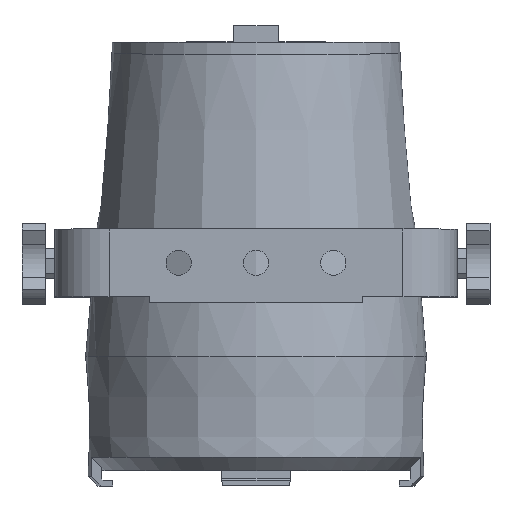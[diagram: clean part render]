
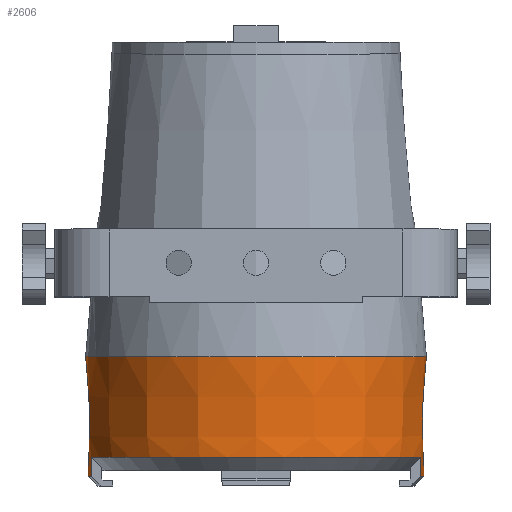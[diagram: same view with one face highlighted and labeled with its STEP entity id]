
A CAD part, top view. The second image highlights one B-rep face of the part: STEP entity #2606.
In plain terms, the highlighted conical face has half-angle 1 degrees and reference radius 87.573 mm.
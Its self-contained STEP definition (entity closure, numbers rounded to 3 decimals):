
#20=CONICAL_SURFACE('',#2852,87.572,0.017);
#45=B_SPLINE_CURVE_WITH_KNOTS('',3,(#4403,#4404,#4405,#4406),
 .UNSPECIFIED.,.F.,.F.,(4,4),(0.,0.99),.UNSPECIFIED.);
#46=B_SPLINE_CURVE_WITH_KNOTS('',3,(#4415,#4416,#4417,#4418),
 .UNSPECIFIED.,.F.,.F.,(4,4),(0.01,1.),.UNSPECIFIED.);
#48=B_SPLINE_CURVE_WITH_KNOTS('',3,(#4437,#4438,#4439,#4440),
 .UNSPECIFIED.,.F.,.F.,(4,4),(0.01,1.),.UNSPECIFIED.);
#49=B_SPLINE_CURVE_WITH_KNOTS('',3,(#4445,#4446,#4447,#4448),
 .UNSPECIFIED.,.F.,.F.,(4,4),(0.,0.99),.UNSPECIFIED.);
#50=B_SPLINE_CURVE_WITH_KNOTS('',3,(#4452,#4453,#4454,#4455),
 .UNSPECIFIED.,.F.,.F.,(4,4),(0.01,1.),.UNSPECIFIED.);
#51=B_SPLINE_CURVE_WITH_KNOTS('',3,(#4459,#4460,#4461,#4462),
 .UNSPECIFIED.,.F.,.F.,(4,4),(0.,0.99),.UNSPECIFIED.);
#163=CIRCLE('',#2851,87.005);
#164=CIRCLE('',#2853,88.088);
#165=CIRCLE('',#2854,88.088);
#166=CIRCLE('',#2855,87.005);
#167=CIRCLE('',#2856,87.178);
#168=CIRCLE('',#2857,87.178);
#169=CIRCLE('',#2858,87.005);
#170=CIRCLE('',#2859,87.178);
#171=CIRCLE('',#2860,87.005);
#331=FACE_OUTER_BOUND('',#481,.T.);
#481=EDGE_LOOP('',(#2256,#2257,#2258,#2259,#2260,#2261,#2262,#2263,#2264,
#2265,#2266,#2267,#2268,#2269,#2270,#2271,#2272));
#728=LINE('',#4433,#980);
#980=VECTOR('',#3514,87.572);
#1221=VERTEX_POINT('',#4391);
#1222=VERTEX_POINT('',#4396);
#1223=VERTEX_POINT('',#4410);
#1224=VERTEX_POINT('',#4414);
#1225=VERTEX_POINT('',#4428);
#1226=VERTEX_POINT('',#4429);
#1227=VERTEX_POINT('',#4432);
#1228=VERTEX_POINT('',#4434);
#1229=VERTEX_POINT('',#4436);
#1230=VERTEX_POINT('',#4442);
#1231=VERTEX_POINT('',#4444);
#1232=VERTEX_POINT('',#4449);
#1233=VERTEX_POINT('',#4451);
#1234=VERTEX_POINT('',#4456);
#1235=VERTEX_POINT('',#4458);
#1575=EDGE_CURVE('',#1222,#1221,#45,.T.);
#1578=EDGE_CURVE('',#1223,#1224,#46,.T.);
#1580=EDGE_CURVE('',#1222,#1224,#163,.T.);
#1581=EDGE_CURVE('',#1225,#1226,#164,.T.);
#1582=EDGE_CURVE('',#1226,#1225,#165,.T.);
#1583=EDGE_CURVE('',#1226,#1227,#728,.T.);
#1584=EDGE_CURVE('',#1228,#1227,#166,.T.);
#1585=EDGE_CURVE('',#1229,#1228,#48,.T.);
#1586=EDGE_CURVE('',#1221,#1229,#167,.T.);
#1587=EDGE_CURVE('',#1230,#1223,#168,.T.);
#1588=EDGE_CURVE('',#1231,#1230,#49,.T.);
#1589=EDGE_CURVE('',#1231,#1232,#169,.T.);
#1590=EDGE_CURVE('',#1233,#1232,#50,.T.);
#1591=EDGE_CURVE('',#1234,#1233,#170,.T.);
#1592=EDGE_CURVE('',#1235,#1234,#51,.T.);
#1593=EDGE_CURVE('',#1227,#1235,#171,.T.);
#2256=ORIENTED_EDGE('',*,*,#1581,.F.);
#2257=ORIENTED_EDGE('',*,*,#1582,.F.);
#2258=ORIENTED_EDGE('',*,*,#1583,.T.);
#2259=ORIENTED_EDGE('',*,*,#1584,.F.);
#2260=ORIENTED_EDGE('',*,*,#1585,.F.);
#2261=ORIENTED_EDGE('',*,*,#1586,.F.);
#2262=ORIENTED_EDGE('',*,*,#1575,.F.);
#2263=ORIENTED_EDGE('',*,*,#1580,.T.);
#2264=ORIENTED_EDGE('',*,*,#1578,.F.);
#2265=ORIENTED_EDGE('',*,*,#1587,.F.);
#2266=ORIENTED_EDGE('',*,*,#1588,.F.);
#2267=ORIENTED_EDGE('',*,*,#1589,.T.);
#2268=ORIENTED_EDGE('',*,*,#1590,.F.);
#2269=ORIENTED_EDGE('',*,*,#1591,.F.);
#2270=ORIENTED_EDGE('',*,*,#1592,.F.);
#2271=ORIENTED_EDGE('',*,*,#1593,.F.);
#2272=ORIENTED_EDGE('',*,*,#1583,.F.);
#2606=ADVANCED_FACE('',(#331),#20,.T.);
#2851=AXIS2_PLACEMENT_3D('',#4426,#3506,#3507);
#2852=AXIS2_PLACEMENT_3D('',#4427,#3508,#3509);
#2853=AXIS2_PLACEMENT_3D('',#4430,#3510,#3511);
#2854=AXIS2_PLACEMENT_3D('',#4431,#3512,#3513);
#2855=AXIS2_PLACEMENT_3D('',#4435,#3515,#3516);
#2856=AXIS2_PLACEMENT_3D('',#4441,#3517,#3518);
#2857=AXIS2_PLACEMENT_3D('',#4443,#3519,#3520);
#2858=AXIS2_PLACEMENT_3D('',#4450,#3521,#3522);
#2859=AXIS2_PLACEMENT_3D('',#4457,#3523,#3524);
#2860=AXIS2_PLACEMENT_3D('',#4463,#3525,#3526);
#3506=DIRECTION('center_axis',(0.,0.,1.));
#3507=DIRECTION('ref_axis',(-0.979,0.203,0.));
#3508=DIRECTION('center_axis',(0.,0.,1.));
#3509=DIRECTION('ref_axis',(0.,-1.,0.));
#3510=DIRECTION('center_axis',(0.,0.,1.));
#3511=DIRECTION('ref_axis',(1.,0.,0.));
#3512=DIRECTION('center_axis',(0.,0.,1.));
#3513=DIRECTION('ref_axis',(1.,0.,0.));
#3514=DIRECTION('',(0.,-0.017,-1.));
#3515=DIRECTION('center_axis',(0.,0.,-1.));
#3516=DIRECTION('ref_axis',(-0.203,0.979,0.));
#3517=DIRECTION('center_axis',(0.,0.,
-1.));
#3518=DIRECTION('ref_axis',(0.,1.,0.));
#3519=DIRECTION('center_axis',(0.,0.,
-1.));
#3520=DIRECTION('ref_axis',(0.,1.,0.));
#3521=DIRECTION('center_axis',(0.,0.,1.));
#3522=DIRECTION('ref_axis',(0.979,-0.203,0.));
#3523=DIRECTION('center_axis',(0.,0.,
-1.));
#3524=DIRECTION('ref_axis',(0.,1.,0.));
#3525=DIRECTION('center_axis',(0.,0.,-1.));
#3526=DIRECTION('ref_axis',(-0.203,0.979,0.));
#4391=CARTESIAN_POINT('',(-85.295,18.02,-63.1));
#4396=CARTESIAN_POINT('',(-85.191,17.675,-73.001));
#4403=CARTESIAN_POINT('Ctrl Pts',(-85.191,17.675,-73.001));
#4404=CARTESIAN_POINT('Ctrl Pts',(-85.226,17.79,-69.701));
#4405=CARTESIAN_POINT('Ctrl Pts',(-85.261,17.905,-66.4));
#4406=CARTESIAN_POINT('Ctrl Pts',(-85.295,18.02,-63.1));
#4410=CARTESIAN_POINT('',(-85.295,-18.02,-63.1));
#4414=CARTESIAN_POINT('',(-85.191,-17.675,-73.001));
#4415=CARTESIAN_POINT('Ctrl Pts',(-85.295,-18.02,-63.1));
#4416=CARTESIAN_POINT('Ctrl Pts',(-85.261,-17.905,-66.4));
#4417=CARTESIAN_POINT('Ctrl Pts',(-85.226,-17.79,-69.701));
#4418=CARTESIAN_POINT('Ctrl Pts',(-85.191,-17.675,-73.001));
#4426=CARTESIAN_POINT('Origin',(0.,0.,-73.001));
#4427=CARTESIAN_POINT('Origin',(0.,0.,-40.493));
#4428=CARTESIAN_POINT('',(0.,-88.088,-10.987));
#4429=CARTESIAN_POINT('',(0.,88.088,-10.987));
#4430=CARTESIAN_POINT('Origin',(0.,0.,-10.987));
#4431=CARTESIAN_POINT('Origin',(0.,0.,-10.987));
#4432=CARTESIAN_POINT('',(0.,87.005,-73.001));
#4433=CARTESIAN_POINT('',(0.,87.572,-40.493));
#4434=CARTESIAN_POINT('',(-17.675,85.191,-73.001));
#4435=CARTESIAN_POINT('Origin',(0.,0.,-73.001));
#4436=CARTESIAN_POINT('',(-18.02,85.295,-63.1));
#4437=CARTESIAN_POINT('Ctrl Pts',(-18.02,85.295,-63.1));
#4438=CARTESIAN_POINT('Ctrl Pts',(-17.905,85.261,-66.4));
#4439=CARTESIAN_POINT('Ctrl Pts',(-17.79,85.226,-69.701));
#4440=CARTESIAN_POINT('Ctrl Pts',(-17.675,85.191,-73.001));
#4441=CARTESIAN_POINT('Origin',(0.,0.,
-63.1));
#4442=CARTESIAN_POINT('',(85.29,-18.045,-63.1));
#4443=CARTESIAN_POINT('Origin',(0.,0.,
-63.1));
#4444=CARTESIAN_POINT('',(85.186,-17.699,-73.001));
#4445=CARTESIAN_POINT('Ctrl Pts',(85.186,-17.699,-73.001));
#4446=CARTESIAN_POINT('Ctrl Pts',(85.221,-17.815,-69.701));
#4447=CARTESIAN_POINT('Ctrl Pts',(85.255,-17.93,-66.4));
#4448=CARTESIAN_POINT('Ctrl Pts',(85.29,-18.045,-63.1));
#4449=CARTESIAN_POINT('',(85.186,17.699,-73.001));
#4450=CARTESIAN_POINT('Origin',(0.,0.,-73.001));
#4451=CARTESIAN_POINT('',(85.29,18.045,-63.1));
#4452=CARTESIAN_POINT('Ctrl Pts',(85.29,18.045,-63.1));
#4453=CARTESIAN_POINT('Ctrl Pts',(85.255,17.93,-66.4));
#4454=CARTESIAN_POINT('Ctrl Pts',(85.221,17.815,-69.701));
#4455=CARTESIAN_POINT('Ctrl Pts',(85.186,17.699,-73.001));
#4456=CARTESIAN_POINT('',(18.02,85.295,-63.1));
#4457=CARTESIAN_POINT('Origin',(0.,0.,
-63.1));
#4458=CARTESIAN_POINT('',(17.675,85.191,-73.001));
#4459=CARTESIAN_POINT('Ctrl Pts',(17.675,85.191,-73.001));
#4460=CARTESIAN_POINT('Ctrl Pts',(17.79,85.226,-69.701));
#4461=CARTESIAN_POINT('Ctrl Pts',(17.905,85.261,-66.4));
#4462=CARTESIAN_POINT('Ctrl Pts',(18.02,85.295,-63.1));
#4463=CARTESIAN_POINT('Origin',(0.,0.,-73.001));
